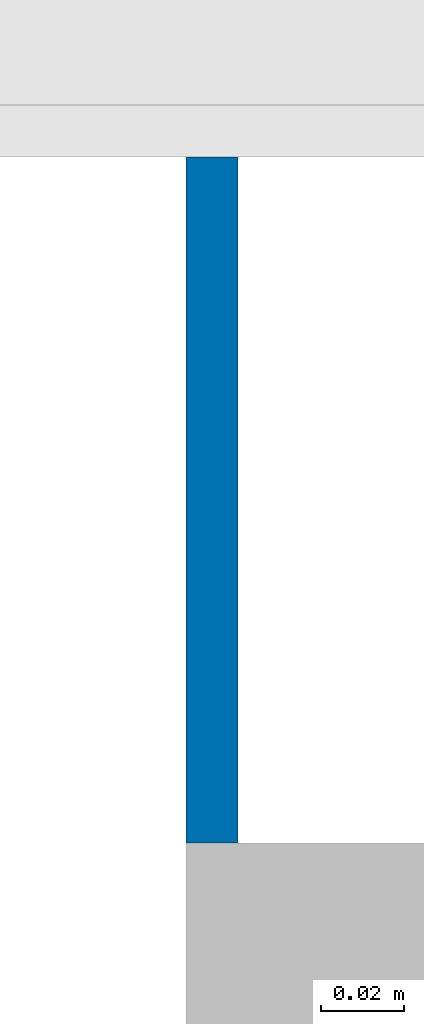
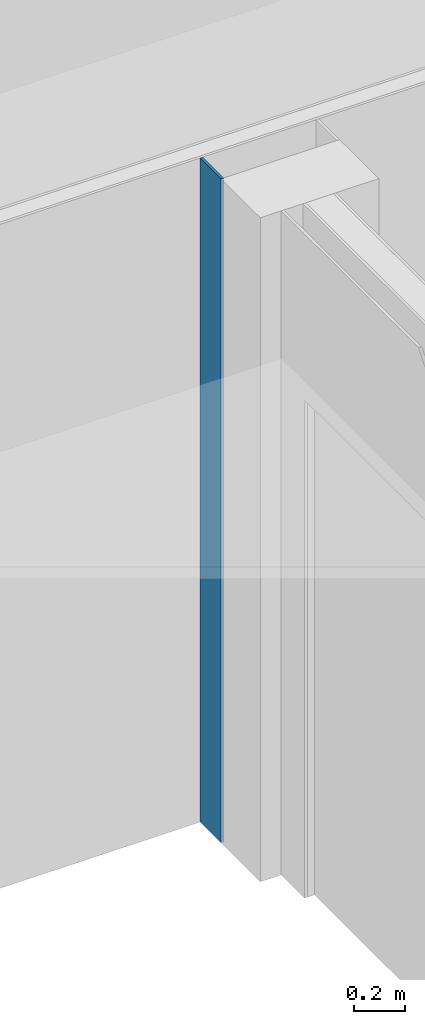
# One storey, part 47 of 99: 1 wall.
"""IFC2X3 building model written with IfcOpenShell, lengths in millimetres."""

from ifc_helpers import new_model, entity, si_unit, converted_unit, derived_unit, money_unit, direction, frame, origin_with_axes, place, context, subcontext, project, spatial, faceted_brep, material, type_object, element, save


model = new_model("IFC2X3")

# Units and contexts
model_context = context("Model", 3, precision=0.01, world=origin_with_axes(), true_north=direction((0.0, 1.0)))
body_context = subcontext(model_context, "Body", "Model", "MODEL_VIEW")
ifc_project = project(units=[si_unit("LENGTHUNIT", "METRE", prefix="MILLI"), si_unit("AREAUNIT", "SQUARE_METRE"), si_unit("VOLUMEUNIT", "CUBIC_METRE"), converted_unit("PLANEANGLEUNIT", "DEGREE", entity("IfcPlaneAngleMeasure", 0.0174532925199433), si_unit("PLANEANGLEUNIT", "RADIAN"), dimensions=[0, 0, 0, 0, 0, 0, 0]), money_unit("EUR"), converted_unit("TIMEUNIT", "Year", entity("IfcTimeMeasure", 31557600.0), si_unit("TIMEUNIT", "SECOND"), dimensions=[0, 0, 1, 0, 0, 0, 0]), si_unit("MASSUNIT", "GRAM", prefix="KILO"), si_unit("THERMODYNAMICTEMPERATUREUNIT", "DEGREE_CELSIUS"), si_unit("LUMINOUSINTENSITYUNIT", "LUMEN"), si_unit("ENERGYUNIT", "JOULE", prefix="MEGA"), derived_unit("THERMALCONDUCTANCEUNIT", [(si_unit("POWERUNIT", "WATT"), 1), (si_unit("LENGTHUNIT", "METRE"), -1), (si_unit("THERMODYNAMICTEMPERATUREUNIT", "KELVIN"), -1)]), derived_unit("SPECIFICHEATCAPACITYUNIT", [(si_unit("ENERGYUNIT", "JOULE"), 1), (si_unit("MASSUNIT", "GRAM", prefix="KILO"), -1), (si_unit("THERMODYNAMICTEMPERATUREUNIT", "KELVIN"), -1)]), derived_unit("MASSDENSITYUNIT", [(si_unit("MASSUNIT", "GRAM", prefix="KILO"), 1), (si_unit("VOLUMEUNIT", "CUBIC_METRE"), -1)])], contexts=[model_context])

# Site, building, storey
site_placement = place(None, origin_with_axes())
site = spatial("IfcSite", under=ifc_project, at=site_placement, Name="Site", CompositionType="ELEMENT")
building_placement = place(site_placement, origin_with_axes())
building = spatial("IfcBuilding", under=site, at=building_placement, Name="Naam gebouw", CompositionType="ELEMENT")
storey_placement = place(building_placement, frame((0.0, 0.0, 7650.0), z_axis=(0.0, 0.0, 1.0), x_axis=(1.0, 0.0, 0.0)))
storey = spatial("IfcBuildingStorey", under=building, at=storey_placement, Name="2e verdieping N", CompositionType="ELEMENT", Elevation=7650.0)

# Wall
ifc_material = material(Name="Gipsplaat")
wall_type = type_object("IfcWallType", Name="Metalstud 100 enkel 100", PredefinedType="NOTDEFINED")
wall_placement = place(storey_placement, frame((42929.99999999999, 18180.91242510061, 0.0), z_axis=(0.0, 0.0, 1.0), x_axis=(0.0, 1.0, 0.0)))
element("IfcWall", 1, at=wall_placement, inside=storey, type_object=wall_type, material=ifc_material, Name="_Wand-x", context=body_context, shape_type="Brep", body=[
    faceted_brep([(164.999999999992, -12.50000000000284, 0.0), (164.999999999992, 0.0, 0.0), (164.999999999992, 0.0, 3199.999999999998), (164.9999999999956, -12.49999999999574, 3199.999999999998), (0.0, -12.50000000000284, 0.0), (0.0, 0.0, 0.0), (0.0, 0.0, 3199.999999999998), (0.0, -12.50000000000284, 3199.999999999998)], [[[0, 1, 2, 3]], [[0, 4, 5, 1]], [[1, 5, 6, 2]], [[2, 6, 7, 3]], [[4, 0, 3, 7]], [[5, 4, 7, 6]]]),
])

save(model, "model.ifc")
